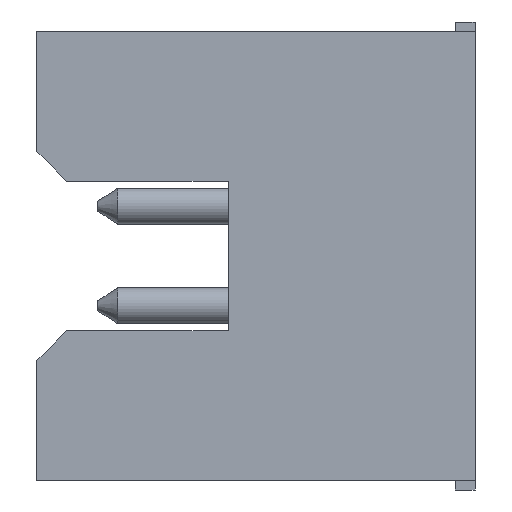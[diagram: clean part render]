
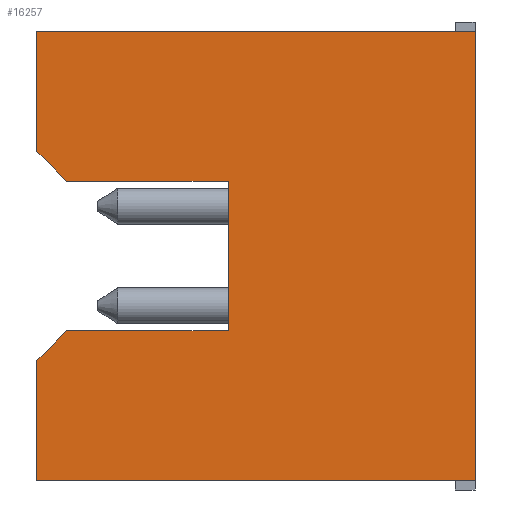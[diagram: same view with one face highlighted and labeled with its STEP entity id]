
A CAD part, left-side view. The second image highlights one B-rep face of the part: STEP entity #16257.
In plain terms, the highlighted planar face has unit normal (-1, 0, 0).
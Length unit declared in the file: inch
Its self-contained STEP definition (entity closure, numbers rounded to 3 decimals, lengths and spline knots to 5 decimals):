
#141 = CARTESIAN_POINT ( 'NONE',  ( -1.375, 0.22, -0.1125 ) ) ;
#161 = CARTESIAN_POINT ( 'NONE',  ( -1.375, 0.22, 0.0525 ) ) ;
#3670 = VECTOR ( 'NONE', #17403, 39.37008 ) ;
#3802 = LINE ( 'NONE', #17425, #4404 ) ;
#3928 = LINE ( 'NONE', #10958, #3958 ) ;
#3958 = VECTOR ( 'NONE', #11036, 39.37008 ) ;
#4404 = VECTOR ( 'NONE', #17423, 39.37008 ) ;
#4418 = LINE ( 'NONE', #17405, #3670 ) ;
#4588 = LINE ( 'NONE', #17288, #4747 ) ;
#4720 = VECTOR ( 'NONE', #17410, 39.37008 ) ;
#4730 = LINE ( 'NONE', #17417, #4720 ) ;
#4747 = VECTOR ( 'NONE', #17284, 39.37008 ) ;
#4808 = LINE ( 'NONE', #17264, #4910 ) ;
#4910 = VECTOR ( 'NONE', #11083, 39.37008 ) ;
#5015 = FACE_OUTER_BOUND ( 'NONE', #7285, .T. ) ;
#5373 = VECTOR ( 'NONE', #11176, 39.37008 ) ;
#5385 = VECTOR ( 'NONE', #11186, 39.37008 ) ;
#5397 = VECTOR ( 'NONE', #11319, 39.37008 ) ;
#5398 = VECTOR ( 'NONE', #11068, 39.37008 ) ;
#5403 = LINE ( 'NONE', #11337, #5385 ) ;
#5415 = LINE ( 'NONE', #11101, #5397 ) ;
#5416 = LINE ( 'NONE', #11324, #5398 ) ;
#5427 = LINE ( 'NONE', #10933, #5373 ) ;
#7285 = EDGE_LOOP ( 'NONE', ( #14489, #14492, #14493, #14495, #14496, #14498, #14502, #14503, #14506, #14510 ) ) ;
#7969 = CARTESIAN_POINT ( 'NONE',  ( -1.375, 0.205, -0.0375 ) ) ;
#7984 = CARTESIAN_POINT ( 'NONE',  ( -1.375, 0.124, 0.0375 ) ) ;
#7985 = CARTESIAN_POINT ( 'NONE',  ( -1.375, 0.22, 0.1125 ) ) ;
#8035 = CARTESIAN_POINT ( 'NONE',  ( -1.375, 0.22, -0.0525 ) ) ;
#8093 = CARTESIAN_POINT ( 'NONE',  ( -1.375, 0.124, -0.0375 ) ) ;
#8095 = CARTESIAN_POINT ( 'NONE',  ( -1.375, 0.205, 0.0375 ) ) ;
#8309 = CARTESIAN_POINT ( 'NONE',  ( -1.375, 0., 0.1125 ) ) ;
#8343 = DIRECTION ( 'NONE',  ( 0., 0., -1. ) ) ;
#8347 = DIRECTION ( 'NONE',  ( 1., 0., 0. ) ) ;
#8354 = PLANE ( 'NONE',  #9616 ) ;
#8359 = CARTESIAN_POINT ( 'NONE',  ( -1.375, 0., 0.1125 ) ) ;
#9616 = AXIS2_PLACEMENT_3D ( 'NONE', #8359, #8347, #8343 ) ;
#10351 = EDGE_CURVE ( 'NONE', #13395, #13284, #3802, .T. ) ;
#10357 = EDGE_CURVE ( 'NONE', #13288, #13395, #4730, .T. ) ;
#10360 = EDGE_CURVE ( 'NONE', #13413, #13288, #4418, .T. ) ;
#10434 = EDGE_CURVE ( 'NONE', #13394, #13074, #4588, .T. ) ;
#10446 = EDGE_CURVE ( 'NONE', #13700, #13909, #4808, .T. ) ;
#10489 = EDGE_CURVE ( 'NONE', #13074, #13700, #5415, .T. ) ;
#10490 = EDGE_CURVE ( 'NONE', #13413, #12819, #5403, .T. ) ;
#10491 = EDGE_CURVE ( 'NONE', #13887, #13284, #5427, .T. ) ;
#10562 = EDGE_CURVE ( 'NONE', #13887, #13394, #3928, .T. ) ;
#10575 = EDGE_CURVE ( 'NONE', #13909, #12819, #5416, .T. ) ;
#10933 = CARTESIAN_POINT ( 'NONE',  ( -1.375, 0.205, 0.0375 ) ) ;
#10958 = CARTESIAN_POINT ( 'NONE',  ( -1.375, 0.22, 0.1125 ) ) ;
#11036 = DIRECTION ( 'NONE',  ( 0., 0., 1. ) ) ;
#11068 = DIRECTION ( 'NONE',  ( 0., 0., 1. ) ) ;
#11083 = DIRECTION ( 'NONE',  ( 0., 1., 0. ) ) ;
#11101 = CARTESIAN_POINT ( 'NONE',  ( -1.375, 0., 0.1125 ) ) ;
#11176 = DIRECTION ( 'NONE',  ( 0., -0.707, -0.707 ) ) ;
#11186 = DIRECTION ( 'NONE',  ( 0., 0.707, -0.707 ) ) ;
#11319 = DIRECTION ( 'NONE',  ( 0., 0., -1. ) ) ;
#11324 = CARTESIAN_POINT ( 'NONE',  ( -1.375, 0.22, -0.0375 ) ) ;
#11337 = CARTESIAN_POINT ( 'NONE',  ( -1.375, 0.22, -0.0525 ) ) ;
#12819 = VERTEX_POINT ( 'NONE', #8035 ) ;
#13074 = VERTEX_POINT ( 'NONE', #8309 ) ;
#13284 = VERTEX_POINT ( 'NONE', #8095 ) ;
#13288 = VERTEX_POINT ( 'NONE', #8093 ) ;
#13394 = VERTEX_POINT ( 'NONE', #7985 ) ;
#13395 = VERTEX_POINT ( 'NONE', #7984 ) ;
#13413 = VERTEX_POINT ( 'NONE', #7969 ) ;
#13700 = VERTEX_POINT ( 'NONE', #21563 ) ;
#13887 = VERTEX_POINT ( 'NONE', #161 ) ;
#13909 = VERTEX_POINT ( 'NONE', #141 ) ;
#14489 = ORIENTED_EDGE ( 'NONE', *, *, #10360, .F. ) ;
#14492 = ORIENTED_EDGE ( 'NONE', *, *, #10490, .T. ) ;
#14493 = ORIENTED_EDGE ( 'NONE', *, *, #10575, .F. ) ;
#14495 = ORIENTED_EDGE ( 'NONE', *, *, #10446, .F. ) ;
#14496 = ORIENTED_EDGE ( 'NONE', *, *, #10489, .F. ) ;
#14498 = ORIENTED_EDGE ( 'NONE', *, *, #10434, .F. ) ;
#14502 = ORIENTED_EDGE ( 'NONE', *, *, #10562, .F. ) ;
#14503 = ORIENTED_EDGE ( 'NONE', *, *, #10491, .T. ) ;
#14506 = ORIENTED_EDGE ( 'NONE', *, *, #10351, .F. ) ;
#14510 = ORIENTED_EDGE ( 'NONE', *, *, #10357, .F. ) ;
#16257 = ADVANCED_FACE ( 'NONE', ( #5015 ), #8354, .F. ) ;
#17264 = CARTESIAN_POINT ( 'NONE',  ( -1.375, 0.22, -0.1125 ) ) ;
#17284 = DIRECTION ( 'NONE',  ( 0., -1., 0. ) ) ;
#17288 = CARTESIAN_POINT ( 'NONE',  ( -1.375, 0.22, 0.1125 ) ) ;
#17403 = DIRECTION ( 'NONE',  ( 0., -1., 0. ) ) ;
#17405 = CARTESIAN_POINT ( 'NONE',  ( -1.375, 0.124, -0.0375 ) ) ;
#17410 = DIRECTION ( 'NONE',  ( 0., 0., 1. ) ) ;
#17417 = CARTESIAN_POINT ( 'NONE',  ( -1.375, 0.124, 0.0375 ) ) ;
#17423 = DIRECTION ( 'NONE',  ( 0., 1., 0. ) ) ;
#17425 = CARTESIAN_POINT ( 'NONE',  ( -1.375, 0.22, 0.0375 ) ) ;
#21563 = CARTESIAN_POINT ( 'NONE',  ( -1.375, 0., -0.1125 ) ) ;
